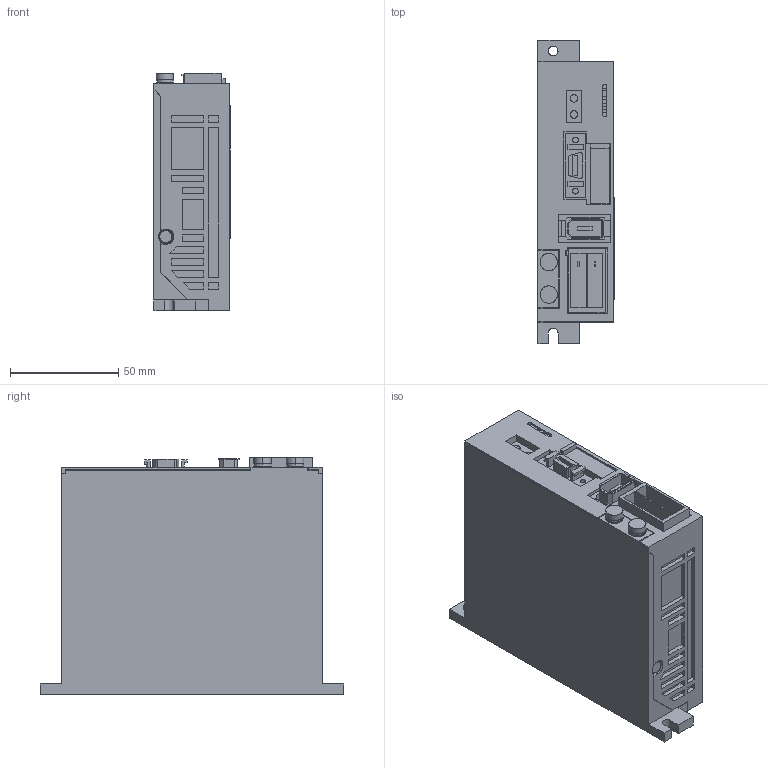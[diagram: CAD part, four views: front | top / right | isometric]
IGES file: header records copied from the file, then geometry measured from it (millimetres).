
Start section: SolidWorks IGES file using analytic representation for surfaces
Global section: file name: D:\YASKAWA\sjde_01apa_oy.IGS; native system: SolidWorks 2006 by SolidWorks Corporation; preprocessor: SolidWorks 2006 by SolidWorks Corporation; author: yamanouchi; date: 111109.083745; units: millimetre
Bounding box: 35.1 x 140 x 109.6 mm (x, y, z)
Surface area: 53130.7 mm2 (no closed solid volume)
Topology: 0 solids, 0 shells, 469 faces, 3558 edges, 3558 vertices
Faces by surface type: bspline 423, revolution 46
